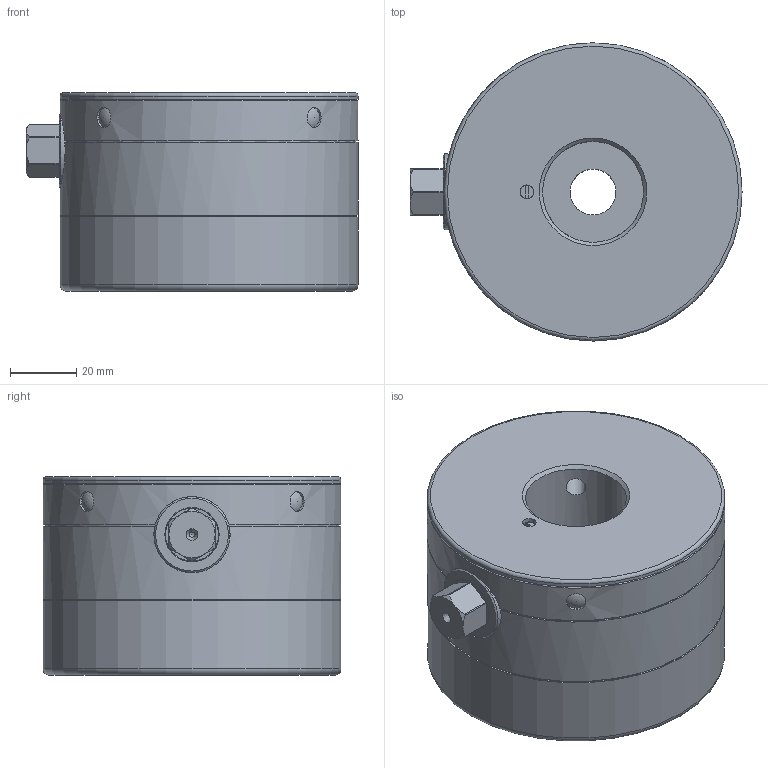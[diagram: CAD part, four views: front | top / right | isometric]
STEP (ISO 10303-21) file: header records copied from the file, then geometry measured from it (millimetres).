
FILE_DESCRIPTION(/* description */ ('Unknown','CAx-IF Rec.Pracs.---Representation and Presentation of Product Manufacturing Information (PMI)---4.0---2014-10-13','CAx-IF Rec.Pracs.---3D Tessellated Geometry---0.4---2014-09-14','2;1'),/* implementation_level */ '2;1');
FILE_NAME(/* name */ 'MDR 120 - M16 - SW 14',/* time_stamp */ '2023-09-26T11:22:40+02:00',/* author */ ('Unknown'),/* organization */ ('Unknown'),/* preprocessor_version */ 'ST-DEVELOPER v18.102',/* originating_system */ 'Solid Edge',/* authorisation */ 'Unknown');
FILE_SCHEMA (('AP242_MANAGED_MODEL_BASED_3D_ENGINEERING_MIM_LF { 1 0 10303 442 1 1 4 }'));
Length unit declared in the file: millimetre
Products named in the file (1): 16333037_Vereinfachung
Bounding box: 100.3 x 90 x 60 mm (x, y, z)
Volume: 354712.9 mm3; surface area: 36107.7 mm2
Topology: 1 solids, 1 shells, 92 faces, 224 edges, 142 vertices
Faces by surface type: plane 30, cylinder 27, cone 23, sphere 8, torus 4
Full cylindrical faces by diameter (mm): 1.6 x2, 4.134 x1, 6 x8, 12 x1, 13.835 x1, 16 x1, 30.5 x1, 35 x1, 42 x1, 89 x1, 90 x4
Entity records: 2961 total; most frequent: CARTESIAN_POINT 536, DIRECTION 378, ORIENTED_EDGE 286, AXIS2_PLACEMENT_3D 174, FACE_BOUND 154, EDGE_LOOP 152, EDGE_CURVE 143, VERTEX_POINT 113
